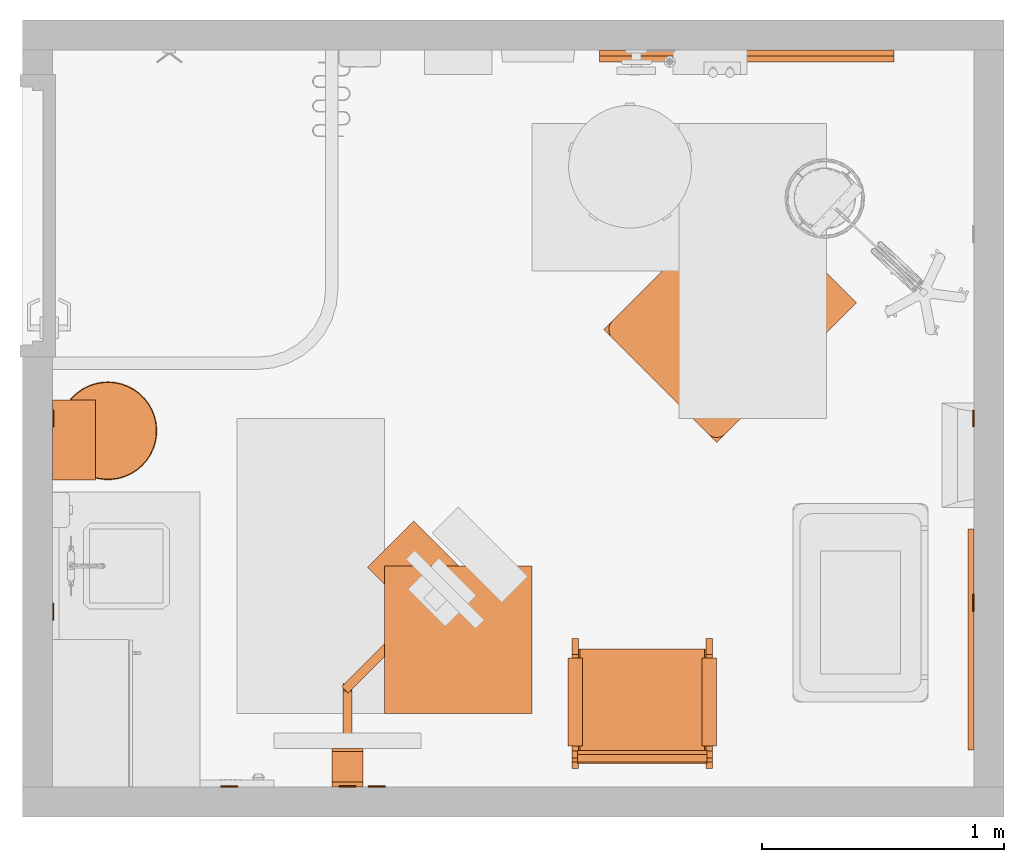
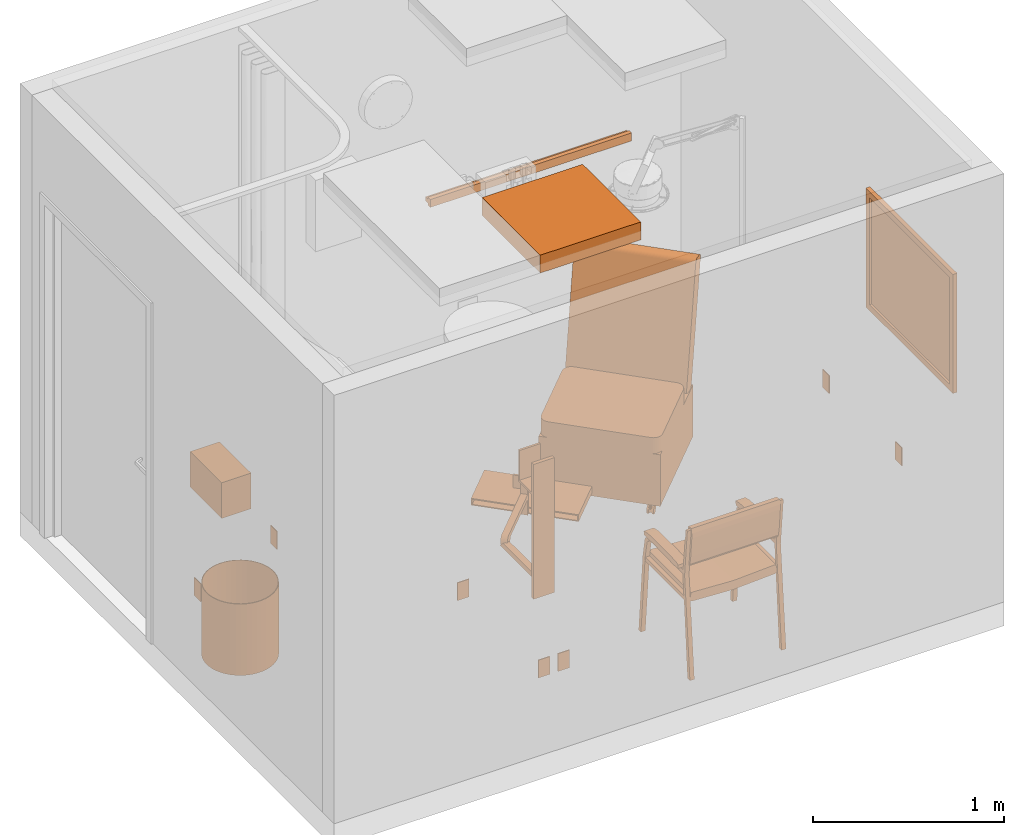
# One storey, part 5 of 10: 15 proxies.
"""IFC2X3 building model written with IfcOpenShell, lengths in feet."""

from ifc_helpers import new_model, entity, si_unit, converted_unit, derived_unit, direction, frame, frame_2d, origin, origin_2d_with_axis, place, context, subcontext, project, spatial, polyline, circle_curve, parameter, trimmed, segment, composite_curve, rectangle, circle, hollow_circle, outline, extrude, source, transform, mapped, type_object, type_shapes, element, save


model = new_model("IFC2X3")

# Units and contexts
model_context = context("Model", 3, precision=0.0001, world=origin(), true_north=direction((6.12303176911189e-17, 1.0)))
body_context = subcontext(model_context, "Body", "Model", "MODEL_VIEW")
ifc_project = project(units=[converted_unit("LENGTHUNIT", "FOOT", entity("IfcRatioMeasure", 0.3048), si_unit("LENGTHUNIT", "METRE"), dimensions=[1, 0, 0, 0, 0, 0, 0]), converted_unit("AREAUNIT", "SQUARE FOOT", entity("IfcRatioMeasure", 0.09290304), si_unit("AREAUNIT", "SQUARE_METRE"), dimensions=[2, 0, 0, 0, 0, 0, 0]), converted_unit("VOLUMEUNIT", "CUBIC FOOT", entity("IfcRatioMeasure", 0.028316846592), si_unit("VOLUMEUNIT", "CUBIC_METRE"), dimensions=[3, 0, 0, 0, 0, 0, 0]), converted_unit("PLANEANGLEUNIT", "DEGREE", entity("IfcRatioMeasure", 0.0174532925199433), si_unit("PLANEANGLEUNIT", "RADIAN"), dimensions=[0, 0, 0, 0, 0, 0, 0]), si_unit("MASSUNIT", "GRAM", prefix="KILO"), derived_unit("MASSDENSITYUNIT", [(si_unit("MASSUNIT", "GRAM", prefix="KILO"), 1), (si_unit("LENGTHUNIT", "METRE"), -3)]), si_unit("TIMEUNIT", "SECOND"), si_unit("FREQUENCYUNIT", "HERTZ"), si_unit("THERMODYNAMICTEMPERATUREUNIT", "DEGREE_CELSIUS"), derived_unit("THERMALTRANSMITTANCEUNIT", [(si_unit("MASSUNIT", "GRAM", prefix="KILO"), 1), (si_unit("THERMODYNAMICTEMPERATUREUNIT", "KELVIN"), -1), (si_unit("TIMEUNIT", "SECOND"), -3)]), derived_unit("VOLUMETRICFLOWRATEUNIT", [(si_unit("LENGTHUNIT", "METRE"), 3), (si_unit("TIMEUNIT", "SECOND"), -1)]), si_unit("ELECTRICCURRENTUNIT", "AMPERE"), si_unit("ELECTRICVOLTAGEUNIT", "VOLT"), si_unit("POWERUNIT", "WATT"), si_unit("FORCEUNIT", "NEWTON"), si_unit("ILLUMINANCEUNIT", "LUX"), si_unit("LUMINOUSFLUXUNIT", "LUMEN"), si_unit("LUMINOUSINTENSITYUNIT", "CANDELA"), derived_unit("USERDEFINED", [(si_unit("MASSUNIT", "GRAM", prefix="KILO"), -1), (si_unit("LENGTHUNIT", "METRE"), -2), (si_unit("TIMEUNIT", "SECOND"), 3), (si_unit("LUMINOUSFLUXUNIT", "LUMEN"), 1)]), derived_unit("LINEARVELOCITYUNIT", [(si_unit("LENGTHUNIT", "METRE"), 1), (si_unit("TIMEUNIT", "SECOND"), -1)]), si_unit("PRESSUREUNIT", "PASCAL"), derived_unit("USERDEFINED", [(si_unit("LENGTHUNIT", "METRE"), -2), (si_unit("MASSUNIT", "GRAM", prefix="KILO"), 1), (si_unit("TIMEUNIT", "SECOND"), -2)])], contexts=[model_context])

# Site, building, storey, space
site_placement = place(None, origin())
site = spatial("IfcSite", under=ifc_project, at=site_placement, Name="Default", CompositionType="ELEMENT")
building_placement = place(site_placement, origin())
building = spatial("IfcBuilding", under=site, at=building_placement, Name="OUTPATIENT / PACT CLINIC (Ch. 265)", CompositionType="ELEMENT")
storey_placement = place(building_placement, origin())
storey = spatial("IfcBuildingStorey", under=building, at=storey_placement, Name="DATUM", CompositionType="ELEMENT", Elevation=0.0)
space_placement = place(storey_placement, origin())
space = spatial("IfcSpace", under=storey, at=space_placement, Name="WRTM3", CompositionType="ELEMENT", InteriorOrExteriorSpace="INTERNAL")

# Proxies
building_element_proxy_type_1 = type_object("IfcBuildingElementProxyType", Name="24\" x 24\"", PredefinedType="NOTDEFINED")
shared_shape_1 = source(origin(), body_context, "Body", "SweptSolid", [
    extrude(rectangle(XDim=2.00000000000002, YDim=2.00000000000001, at=origin_2d_with_axis()), frame((0.0, 0.0, 8.0), z_axis=(0.0, 0.0, 1.0), x_axis=(0.0, 1.0, 0.0)), (0.0, 0.0, 1.0), 0.375),
])
type_shapes(building_element_proxy_type_1, [shared_shape_1])
proxy_1_placement = place(space_placement, frame((241.766410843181, -857.855546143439, 1.0)))
element("IfcBuildingElementProxy", 1, at=proxy_1_placement, inside=space, type_object=building_element_proxy_type_1, Name="Supply Diffuser:24\" x 24\"", ObjectType="24\" x 24\"", context=body_context, shape_type="MappedRepresentation", body=[
    mapped(shared_shape_1, transform((0.0, 0.0, 0.0), scale=1.0)),
])
building_element_proxy_type_2 = type_object("IfcBuildingElementProxyType", Name="A5080 - Dispenser, Paper Towel", PredefinedType="NOTDEFINED")
shared_shape_2 = source(origin(), body_context, "Body", "SweptSolid", [
    extrude(rectangle(XDim=0.58333333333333, YDim=1.08333333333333, at=frame_2d((9.99200722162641e-16, 0.0), x_axis=(1.0, 0.0))), frame((0.0, -0.291666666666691, 0.0), z_axis=(0.0, 0.0, 1.0), x_axis=(0.0, 1.0, 0.0)), (0.0, 0.0, 1.0), 0.75),
])
type_shapes(building_element_proxy_type_2, [shared_shape_2])
proxy_2_placement = place(space_placement, frame((236.266410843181, -855.147212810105, 3.49999999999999), z_axis=(0.0, 0.0, 1.0), x_axis=(0.0, 1.0, 0.0)))
element("IfcBuildingElementProxy", 2, at=proxy_2_placement, inside=space, type_object=building_element_proxy_type_2, Name="A5080 - Dispenser, Paper Towel:A5080 - Dispenser, Paper Towel", ObjectType="A5080 - Dispenser, Paper Towel", context=body_context, shape_type="MappedRepresentation", body=[
    mapped(shared_shape_2, transform((0.0, 0.0, 0.0), scale=1.0)),
])
building_element_proxy_type_3 = type_object("IfcBuildingElementProxyType", Name="F0205 - Chair, Side With Arms", PredefinedType="NOTDEFINED")
shared_shape_3 = source(origin(), body_context, "Body", "SweptSolid", [
    extrude(outline(polyline([(-0.104007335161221, -0.374369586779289), (-0.027711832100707, -0.374369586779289), (-0.0197350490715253, -0.338348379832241), (0.00592434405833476, -0.182113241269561), (0.0162560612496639, -0.135457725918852), (0.0457826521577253, -0.00212284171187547), (0.0856087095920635, 0.177721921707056), (0.112798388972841, 0.276572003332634), (0.120257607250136, 0.307674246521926), (0.129202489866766, 0.415216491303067), (0.045581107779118, 0.433734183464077), (0.0167028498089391, 0.395704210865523), (-0.0364083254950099, 0.222671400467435), (-0.125070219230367, -0.177704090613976), (-0.13682888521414, -0.27538652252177), (-0.128352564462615, -0.36942248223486), (-0.104007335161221, -0.374369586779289)])), frame((-0.891159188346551, -0.878769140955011, 2.73061112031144), z_axis=(0.0, 1.0, 0.0), x_axis=(0.991475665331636, 0.0, -0.130291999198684)), (0.0, 0.0, 1.0), 1.75919993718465),
    extrude(outline(polyline([(0.0907668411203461, -0.842703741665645), (0.261538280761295, -0.842703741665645), (0.265730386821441, -0.773999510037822), (0.127479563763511, 0.0287496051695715), (-0.0923338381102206, 0.813085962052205), (-0.125373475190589, 0.873420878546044), (-0.279635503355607, 0.800086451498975), (-0.270660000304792, 0.752608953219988), (-0.0560029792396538, -0.0126173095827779), (0.0784907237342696, -0.795927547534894), (0.0907668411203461, -0.842703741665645)])), frame((-0.90556950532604, 0.000822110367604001, 1.62079321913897), z_axis=(1.0, 0.0, 0.0), x_axis=(0.0, -0.219936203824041, -0.975514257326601)), (0.0, 0.0, 1.0), 1.47211210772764),
    extrude(outline(polyline([(-0.552031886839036, -0.234422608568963), (-0.484734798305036, -0.234422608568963), (-0.233837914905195, -0.160903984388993), (0.324339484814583, 0.0422559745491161), (0.453697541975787, 0.101150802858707), (0.564536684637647, 0.176717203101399), (0.51204038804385, 0.250193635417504), (0.420212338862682, 0.216770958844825), (0.254858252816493, 0.145732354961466), (-0.246233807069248, -0.0366502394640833), (-0.436544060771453, -0.0986810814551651), (-0.576302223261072, -0.167740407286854), (-0.552031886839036, -0.234422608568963)])), frame((-0.1510824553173, -1.00916916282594, 2.22827697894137), z_axis=(0.0, 1.0, 0.0), x_axis=(0.939692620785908, 0.0, 0.34202014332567)), (0.0, 0.0, 1.0), 0.198199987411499),
    extrude(outline(polyline([(-0.525375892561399, -0.221085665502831), (-0.458078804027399, -0.221085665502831), (-0.207181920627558, -0.147567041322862), (0.350995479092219, 0.0555929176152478), (0.480353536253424, 0.114487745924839), (0.591192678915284, 0.190054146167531), (0.551062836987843, 0.246221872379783), (0.114629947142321, 0.0873732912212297), (0.281514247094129, 0.159069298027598), (-0.219577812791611, -0.0233132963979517), (-0.409888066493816, -0.0853441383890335), (-0.549646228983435, -0.154403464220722), (-0.525375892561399, -0.221085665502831)])), frame((-0.180692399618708, 0.814330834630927, 2.23169271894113), z_axis=(0.0, 1.0, 0.0), x_axis=(0.939692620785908, 0.0, 0.34202014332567)), (0.0, 0.0, 1.0), 0.196499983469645),
    extrude(outline(polyline([(0.0166377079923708, -0.666422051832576), (0.099971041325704, -0.666422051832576), (-0.0172324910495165, 0.673220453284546), (-0.0993762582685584, 0.659623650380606), (0.0166377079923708, -0.666422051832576)])), frame((-0.182442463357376, -0.954369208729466, 1.61480726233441), z_axis=(0.0, 1.0, 0.0), x_axis=(0.0871557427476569, 0.0, -0.996194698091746)), (0.0, 0.0, 1.0), 0.0833333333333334),
    extrude(outline(polyline([(0.0166377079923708, -0.666422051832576), (0.099971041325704, -0.666422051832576), (-0.0172324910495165, 0.673220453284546), (-0.0993762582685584, 0.659623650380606), (0.0166377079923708, -0.666422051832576)])), frame((-0.182442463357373, 0.867430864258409, 1.61480726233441), z_axis=(0.0, 1.0, 0.0), x_axis=(0.0871557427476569, 0.0, -0.996194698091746)), (0.0, 0.0, 1.0), 0.0833333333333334),
    extrude(outline(polyline([(0.811855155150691, -1.61770011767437), (0.895188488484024, -1.61770011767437), (0.71143329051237, 0.489199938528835), (0.806416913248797, 1.46713632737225), (0.751033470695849, 1.46713632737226), (0.656855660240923, 0.571094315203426), (-0.516612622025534, 0.571094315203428), (-0.653571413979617, 0.441277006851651), (-0.728375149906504, 0.0391907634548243), (-0.871611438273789, -1.61770011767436), (-0.791571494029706, -1.61770011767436), (-0.646611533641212, 0.0391998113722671), (-0.578172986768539, 0.407071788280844), (-0.496044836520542, 0.48919993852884), (0.649788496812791, 0.489199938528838), (0.811855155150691, -1.61770011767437)])), frame((-0.163768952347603, -0.954369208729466, 1.61770011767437), z_axis=(0.0, 1.0, 0.0), x_axis=(-1.0, 0.0, 0.0)), (0.0, 0.0, 1.0), 0.0885709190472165),
    extrude(outline(polyline([(0.811855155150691, -1.61770011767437), (0.895188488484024, -1.61770011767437), (0.71143329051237, 0.489199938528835), (0.806416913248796, 1.46713632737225), (0.751033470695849, 1.46713632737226), (0.656855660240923, 0.571094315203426), (-0.516612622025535, 0.571094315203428), (-0.653571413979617, 0.441277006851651), (-0.728375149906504, 0.0391907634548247), (-0.871611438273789, -1.61770011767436), (-0.791571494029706, -1.61770011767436), (-0.646611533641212, 0.0391998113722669), (-0.578172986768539, 0.407071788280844), (-0.496044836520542, 0.48919993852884), (0.649788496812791, 0.489199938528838), (0.811855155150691, -1.61770011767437)])), frame((-0.1637689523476, 0.867430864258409, 1.61770011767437), z_axis=(0.0, 1.0, 0.0), x_axis=(-1.0, 0.0, 0.0)), (0.0, 0.0, 1.0), 0.0885709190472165),
])
type_shapes(building_element_proxy_type_3, [shared_shape_3])
proxy_3_placement = place(space_placement, frame((244.266410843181, -858.546588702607, 0.0), z_axis=(0.0, 0.0, 1.0), x_axis=(0.0, 1.0, 0.0)))
element("IfcBuildingElementProxy", 3, at=proxy_3_placement, inside=space, type_object=building_element_proxy_type_3, Name="F0205 - Chair, Side With Arms:F0205 - Chair, Side With Arms", ObjectType="F0205 - Chair, Side With Arms", context=body_context, shape_type="MappedRepresentation", body=[
    mapped(shared_shape_3, transform((0.0, 0.0, 0.0), scale=1.0)),
])
building_element_proxy_type_4 = type_object("IfcBuildingElementProxyType", Name="F2000 - Basket, Wastepaper", PredefinedType="NOTDEFINED")
shared_shape_4 = source(origin(), body_context, "Body", "SweptSolid", [
    extrude(circle(Radius=0.666666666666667, at=frame_2d((0.0, -1.07702971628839e-15), x_axis=(1.0, 0.0))), origin(), (0.0, 0.0, 1.0), 0.0104166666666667),
    extrude(hollow_circle(Radius=0.666666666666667, WallThickness=0.0104166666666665, at=frame_2d((0.0, -1.07702971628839e-15), x_axis=(1.0, 0.0))), frame((0.0, 0.0, 0.0104166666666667)), (0.0, 0.0, 1.0), 1.48958333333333),
])
type_shapes(building_element_proxy_type_4, [shared_shape_4])
proxy_4_placement = place(space_placement, frame((237.01641084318, -855.022212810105, 0.0), z_axis=(0.0, 0.0, 1.0), x_axis=(0.0, 1.0, 0.0)))
element("IfcBuildingElementProxy", 4, at=proxy_4_placement, inside=space, type_object=building_element_proxy_type_4, Name="F2000 - Basket, Wastepaper:F2000 - Basket, Wastepaper", ObjectType="F2000 - Basket, Wastepaper", context=body_context, shape_type="MappedRepresentation", body=[
    mapped(shared_shape_4, transform((0.0, 0.0, 0.0), scale=1.0)),
])
building_element_proxy_type_5 = type_object("IfcBuildingElementProxyType", Name="F3025 - Board, Bulletin, Wood Framed", PredefinedType="NOTDEFINED")
shared_shape_5 = source(origin(), body_context, "Body", "SweptSolid", [
    extrude(rectangle(XDim=0.0416666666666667, YDim=2.74999999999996, at=origin_2d_with_axis()), frame((0.0, -0.020833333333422, 0.124999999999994), z_axis=(0.0, 0.0, 1.0), x_axis=(0.0, 1.0, 0.0)), (0.0, 0.0, 1.0), 2.25000000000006),
    extrude(outline(polyline([(-1.49999999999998, -1.25), (1.49999999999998, -1.25), (1.49999999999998, 1.25), (-1.49999999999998, 1.25), (-1.49999999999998, -1.25)]), holes=[polyline([(-1.37499999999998, -1.125), (-1.37499999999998, 1.12500000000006), (1.37499999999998, 1.12500000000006), (1.37499999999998, -1.125), (-1.37499999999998, -1.125)])]), frame((0.0, -0.0833333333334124, 1.25), z_axis=(0.0, 1.0, 0.0), x_axis=(-1.0, 0.0, 0.0)), (0.0, 0.0, 1.0), 0.0833333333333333),
])
type_shapes(building_element_proxy_type_5, [shared_shape_5])
proxy_5_placement = place(space_placement, frame((248.766410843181, -857.855546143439, 4.0), z_axis=(0.0, 0.0, 1.0), x_axis=(0.0, -1.0, 0.0)))
element("IfcBuildingElementProxy", 5, at=proxy_5_placement, inside=space, type_object=building_element_proxy_type_5, Name="F3025 - Board, Bulletin, Wood Framed:F3025 - Board, Bulletin, Wood Framed", ObjectType="F3025 - Board, Bulletin, Wood Framed", context=body_context, shape_type="MappedRepresentation", body=[
    mapped(shared_shape_5, transform((0.0, 0.0, 0.0), scale=1.0)),
])
building_element_proxy_type_6 = type_object("IfcBuildingElementProxyType", Name="M1803 - Workstation, Computer, Wall Mounted", PredefinedType="NOTDEFINED")
shared_shape_6 = source(origin(), body_context, "Body", "SweptSolid", [
    extrude(circle(Radius=0.104166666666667, at=frame_2d((1.0547118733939e-15, 3.336446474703e-16), x_axis=(1.0, 0.0))), frame((-0.0810226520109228, -1.34888430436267, 0.333333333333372), z_axis=(0.707106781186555, -0.70710678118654, 0.0), x_axis=(0.0, 0.0, 1.0)), (0.0, 0.0, 1.0), 0.125000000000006),
    extrude(outline(composite_curve([segment(polyline([(0.0520833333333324, -0.592708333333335), (0.0520833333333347, 0.644791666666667)]), True, "CONTINUOUS"), segment(polyline([(0.0520833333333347, 0.644791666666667), (-0.0520833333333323, 0.644791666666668)]), True, "CONTINUOUS"), segment(polyline([(-0.0520833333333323, 0.644791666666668), (-0.0520833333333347, -0.696875)]), True, "CONTINUOUS"), segment(trimmed(circle_curve(frame_2d((0.0520833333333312, -0.696875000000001), x_axis=(1.0, 0.0)), 0.104166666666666), [parameter(89.9999999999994)], [parameter(180.0)], True, "PARAMETER"), False, "CONTINUOUS")], self_intersect=False)), frame((-0.0624999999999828, -0.711458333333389, 0.281250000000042), z_axis=(-1.0, 0.0, 0.0), x_axis=(0.0, 0.0, 1.0)), (0.0, 0.0, -1.0), 0.125000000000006),
    extrude(outline(composite_curve([segment(polyline([(0.0520833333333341, -0.651041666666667), (0.0520833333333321, 0.598958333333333)]), True, "CONTINUOUS"), segment(polyline([(0.0520833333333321, 0.598958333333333), (-0.0520833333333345, 0.598958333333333)]), True, "CONTINUOUS"), segment(polyline([(-0.0520833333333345, 0.598958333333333), (-0.0520833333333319, -0.546875)]), True, "CONTINUOUS"), segment(trimmed(circle_curve(frame_2d((-0.0520833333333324, -0.651041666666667), x_axis=(1.0, 0.0)), 0.104166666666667), [parameter(1.01777749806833e-13)], [parameter(90.0000000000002)], True, "PARAMETER"), False, "CONTINUOUS")], self_intersect=False)), frame((-0.452990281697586, -1.89762862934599, 0.385416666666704), z_axis=(0.707106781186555, -0.70710678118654, 0.0), x_axis=(0.0, 0.0, 1.0)), (0.0, 0.0, -1.0), 0.125000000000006),
    extrude(outline(polyline([(-0.0729166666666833, -0.95833333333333), (0.0729166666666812, -0.95833333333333), (0.0729166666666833, 0.95833333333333), (-0.0729166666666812, 0.95833333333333), (-0.0729166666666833, -0.95833333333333)]), holes=[polyline([(-0.05208333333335, -0.937499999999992), (-0.052083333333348, 0.937499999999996), (0.0520833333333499, 0.937499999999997), (0.0520833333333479, -0.937499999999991), (-0.05208333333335, -0.937499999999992)])]), frame((-1.5747857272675, -2.93103572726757, 0.0729166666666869), z_axis=(0.707106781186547, 0.707106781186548, 0.0), x_axis=(0.0, 0.0, -1.0)), (0.0, 0.0, 1.0), 0.883333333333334),
    extrude(rectangle(XDim=0.0666666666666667, YDim=0.416666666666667, at=origin_2d_with_axis()), frame((0.0, -0.0333333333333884, 0.0), z_axis=(0.0, 0.0, 1.0), x_axis=(0.0, 1.0, 0.0)), (0.0, 0.0, 1.0), 0.11949518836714),
    extrude(outline(polyline([(-0.208333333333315, -0.0270833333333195), (-0.0625000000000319, -0.0270833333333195), (-0.0625000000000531, 0.014583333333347), (0.0625000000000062, 0.014583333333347), (0.0625000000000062, -0.0270833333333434), (0.208333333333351, -0.0270833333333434), (0.208333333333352, 0.0395833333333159), (-0.208333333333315, 0.0395833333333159), (-0.208333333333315, -0.0270833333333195)])), frame((0.0, -0.0395833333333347, 0.119495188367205)), (0.0, 0.0, 1.0), 2.0471714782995),
    extrude(outline(polyline([(-0.194444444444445, 0.125), (0.430555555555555, 0.125), (0.430555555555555, 0.166666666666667), (-0.236111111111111, 0.166666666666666), (-0.236111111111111, -0.291666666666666), (-0.194444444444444, -0.291666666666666), (-0.194444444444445, 0.125)])), frame((-0.208333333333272, -0.358333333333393, 2.40277777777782), z_axis=(1.0, 0.0, 0.0), x_axis=(0.0, 0.0, 1.0)), (0.0, 0.0, 1.0), 0.416666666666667),
    extrude(rectangle(XDim=0.0416666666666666, YDim=0.416666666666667, at=frame_2d((4.16333634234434e-17, -5.55111512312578e-17), x_axis=(1.0, 0.0))), frame((-0.964906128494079, -2.3211561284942, 0.503601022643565), z_axis=(0.0, 0.0, 1.0), x_axis=(0.707106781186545, 0.70710678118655, 0.0)), (0.0, 0.0, 1.0), 0.267232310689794),
    extrude(rectangle(XDim=0.125000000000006, YDim=0.0416666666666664, at=frame_2d((-1.94289029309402e-16, 1.16226472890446e-16), x_axis=(1.0, 0.0))), frame((-0.935443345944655, -2.29169334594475, 0.0), z_axis=(0.0, 0.0, 1.0), x_axis=(-0.707106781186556, 0.70710678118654, 0.0)), (0.0, 0.0, 1.0), 0.666666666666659),
    extrude(rectangle(XDim=0.0666666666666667, YDim=0.416666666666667, at=origin_2d_with_axis()), frame((0.0, -0.0333333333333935, 2.16666666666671), z_axis=(0.0, 0.0, 1.0), x_axis=(0.0, 1.0, 0.0)), (0.0, 0.0, 1.0), 0.666666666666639),
])
type_shapes(building_element_proxy_type_6, [shared_shape_6])
proxy_6_placement = place(space_placement, frame((240.266430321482, -859.855546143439, 3.0), z_axis=(0.0, 0.0, 1.0), x_axis=(-1.0, 0.0, 0.0)))
element("IfcBuildingElementProxy", 6, at=proxy_6_placement, inside=space, type_object=building_element_proxy_type_6, Name="M1803 - Workstation, Computer, Wall Mounted:M1803 - Workstation, Computer, Wall Mounted", ObjectType="M1803 - Workstation, Computer, Wall Mounted", context=body_context, shape_type="MappedRepresentation", body=[
    mapped(shared_shape_6, transform((0.0, 0.0, 0.0), scale=1.0)),
])
building_element_proxy_type_7 = type_object("IfcBuildingElementProxyType", Name="Exam/Treatment Table with Cabinet", PredefinedType="NOTDEFINED")
shared_shape_7 = source(origin(), body_context, "Body", "SweptSolid", [
    extrude(circle(Radius=0.0833333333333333, at=frame_2d((0.0, -1.38777878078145e-16), x_axis=(1.0, 0.0))), frame((-0.843750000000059, 0.432291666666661, 0.0833333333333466), z_axis=(1.0, 0.0, 0.0), x_axis=(0.0, 1.0, 0.0)), (0.0, 0.0, 1.0), 0.0312500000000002),
    extrude(circle(Radius=0.0260416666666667, at=frame_2d((0.0, -5.55111512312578e-17), x_axis=(1.0, 0.0))), frame((-0.87500000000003, 0.463541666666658, 0.0801325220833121), z_axis=(0.0, 0.0, 1.0), x_axis=(-1.0, 0.0, 0.0)), (0.0, 0.0, 1.0), 0.211534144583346),
    extrude(circle(Radius=0.0625, at=frame_2d((0.0, -2.77555756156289e-16), x_axis=(1.0, 0.0))), frame((-0.90625000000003, 0.432291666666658, 0.0833333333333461), z_axis=(1.0, 0.0, 0.0), x_axis=(0.0, -1.0, 0.0)), (0.0, 0.0, 1.0), 0.0625),
    extrude(circle(Radius=0.0833333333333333, at=frame_2d((0.0, -1.38777878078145e-16), x_axis=(1.0, 0.0))), frame((-0.93750000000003, 0.432291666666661, 0.0833333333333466), z_axis=(1.0, 0.0, 0.0), x_axis=(0.0, 1.0, 0.0)), (0.0, 0.0, 1.0), 0.0312500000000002),
    extrude(circle(Radius=0.0833333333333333, at=frame_2d((0.0, -3.7470027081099e-16), x_axis=(1.0, 0.0))), frame((0.81250000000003, 0.432291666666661, 0.083333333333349), z_axis=(1.0, 0.0, 0.0), x_axis=(0.0, 1.0, 0.0)), (0.0, 0.0, 1.0), 0.0312500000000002),
    extrude(circle(Radius=0.0260416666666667, at=frame_2d((0.0, -5.55111512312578e-17), x_axis=(1.0, 0.0))), frame((0.875000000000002, 0.463541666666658, 0.0801325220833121)), (0.0, 0.0, 1.0), 0.211534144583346),
    extrude(circle(Radius=0.0625, at=frame_2d((0.0, -1.11022302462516e-16), x_axis=(1.0, 0.0))), frame((0.843750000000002, 0.432291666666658, 0.0833333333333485), z_axis=(1.0, 0.0, 0.0), x_axis=(0.0, -1.0, 0.0)), (0.0, 0.0, 1.0), 0.0625),
    extrude(circle(Radius=0.0833333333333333, at=frame_2d((0.0, -3.7470027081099e-16), x_axis=(1.0, 0.0))), frame((0.906250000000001, 0.432291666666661, 0.083333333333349), z_axis=(1.0, 0.0, 0.0), x_axis=(0.0, 1.0, 0.0)), (0.0, 0.0, 1.0), 0.0312500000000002),
    extrude(circle(Radius=0.0833333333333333, at=frame_2d((0.0, -1.38777878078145e-16), x_axis=(1.0, 0.0))), frame((-0.843750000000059, -1.41145833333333, 0.0833333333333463), z_axis=(1.0, 0.0, 0.0), x_axis=(0.0, -1.0, 0.0)), (0.0, 0.0, 1.0), 0.0312500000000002),
    extrude(circle(Radius=0.0260416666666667, at=origin_2d_with_axis()), frame((-0.87500000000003, -1.44270833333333, 0.0801325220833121), z_axis=(0.0, 0.0, 1.0), x_axis=(-1.0, 0.0, 0.0)), (0.0, 0.0, 1.0), 0.211534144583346),
    extrude(circle(Radius=0.0625, at=frame_2d((0.0, -2.77555756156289e-16), x_axis=(1.0, 0.0))), frame((-0.90625000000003, -1.41145833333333, 0.0833333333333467), z_axis=(1.0, 0.0, 0.0), x_axis=(0.0, 1.0, 0.0)), (0.0, 0.0, 1.0), 0.0625),
    extrude(circle(Radius=0.0833333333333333, at=frame_2d((0.0, -1.38777878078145e-16), x_axis=(1.0, 0.0))), frame((-0.93750000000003, -1.41145833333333, 0.0833333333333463), z_axis=(1.0, 0.0, 0.0), x_axis=(0.0, -1.0, 0.0)), (0.0, 0.0, 1.0), 0.0312500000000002),
    extrude(circle(Radius=0.0833333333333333, at=frame_2d((0.0, -3.7470027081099e-16), x_axis=(1.0, 0.0))), frame((0.81250000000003, -1.41145833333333, 0.0833333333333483), z_axis=(1.0, 0.0, 0.0), x_axis=(0.0, -1.0, 0.0)), (0.0, 0.0, 1.0), 0.0312500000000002),
    extrude(circle(Radius=0.0260416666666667, at=origin_2d_with_axis()), frame((0.875000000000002, -1.44270833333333, 0.0801325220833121)), (0.0, 0.0, 1.0), 0.211534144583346),
    extrude(circle(Radius=0.0625, at=frame_2d((0.0, -1.11022302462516e-16), x_axis=(1.0, 0.0))), frame((0.843750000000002, -1.41145833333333, 0.0833333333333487), z_axis=(1.0, 0.0, 0.0), x_axis=(0.0, 1.0, 0.0)), (0.0, 0.0, 1.0), 0.0625),
    extrude(circle(Radius=0.0833333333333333, at=frame_2d((0.0, -3.7470027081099e-16), x_axis=(1.0, 0.0))), frame((0.906250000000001, -1.41145833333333, 0.0833333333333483), z_axis=(1.0, 0.0, 0.0), x_axis=(0.0, -1.0, 0.0)), (0.0, 0.0, 1.0), 0.0312500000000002),
    extrude(rectangle(XDim=2.1666666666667, YDim=2.18316882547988, at=origin_2d_with_axis()), frame((0.0, -0.491748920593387, 0.291666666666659), z_axis=(0.0, 0.0, 1.0), x_axis=(-1.0, 0.0, 0.0)), (0.0, 0.0, 1.0), 1.08333333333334),
    extrude(outline(composite_curve([segment(trimmed(circle_curve(frame_2d((-0.221258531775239, -1.14772335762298), x_axis=(1.0, 0.0)), 0.0833333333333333), [parameter(255.0)], [parameter(345.0)], True, "PARAMETER"), True, "CONTINUOUS"), segment(polyline([(-0.140764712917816, -1.16929161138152), (0.462739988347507, 1.08301859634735)]), True, "CONTINUOUS"), segment(trimmed(circle_curve(frame_2d((0.382246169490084, 1.10458685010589), x_axis=(1.0, 0.0)), 0.0833333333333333), [parameter(345.000000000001)], [parameter(75.0000000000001)], True, "PARAMETER"), True, "CONTINUOUS"), segment(polyline([(0.403814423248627, 1.18508066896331), (0.242826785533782, 1.2282171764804)]), True, "CONTINUOUS"), segment(trimmed(circle_curve(frame_2d((0.221258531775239, 1.14772335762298), x_axis=(1.0, 0.0)), 0.0833333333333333), [parameter(74.9999999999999)], [parameter(165.0)], True, "PARAMETER"), True, "CONTINUOUS"), segment(polyline([(0.140764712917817, 1.16929161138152), (-0.462739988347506, -1.08301859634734)]), True, "CONTINUOUS"), segment(trimmed(circle_curve(frame_2d((-0.382246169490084, -1.10458685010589), x_axis=(1.0, 0.0)), 0.0833333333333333), [parameter(165.0)], [parameter(255.0)], True, "PARAMETER"), True, "CONTINUOUS"), segment(polyline([(-0.403814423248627, -1.18508066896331), (-0.242826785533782, -1.2282171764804)]), True, "CONTINUOUS")], self_intersect=False)), frame((-1.08333333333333, 0.632933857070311, 2.62668441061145), z_axis=(1.0, 0.0, 0.0), x_axis=(0.0, 1.0, 0.0)), (0.0, 0.0, 1.0), 2.16666666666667),
    extrude(outline(composite_curve([segment(polyline([(-0.916666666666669, -0.854166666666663), (0.91666666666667, -0.854166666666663)]), True, "CONTINUOUS"), segment(trimmed(circle_curve(frame_2d((0.916666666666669, -0.687499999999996), x_axis=(-1.0, 0.0)), 0.166666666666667), [parameter(90.0000000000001)], [parameter(180.0)], True, "PARAMETER"), True, "CONTINUOUS"), segment(polyline([(1.08333333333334, -0.687499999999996), (1.08333333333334, 0.687499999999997)]), True, "CONTINUOUS"), segment(trimmed(circle_curve(frame_2d((0.916666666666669, 0.687499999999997), x_axis=(-1.0, 0.0)), 0.166666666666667), [parameter(180.0)], [parameter(270.0)], True, "PARAMETER"), True, "CONTINUOUS"), segment(polyline([(0.916666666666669, 0.854166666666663), (-0.91666666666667, 0.854166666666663)]), True, "CONTINUOUS"), segment(trimmed(circle_curve(frame_2d((-0.916666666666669, 0.687499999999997), x_axis=(-1.0, 0.0)), 0.166666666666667), [parameter(270.0)], [parameter(0.0)], True, "PARAMETER"), True, "CONTINUOUS"), segment(polyline([(-1.08333333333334, 0.687499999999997), (-1.08333333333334, -0.687499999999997)]), True, "CONTINUOUS"), segment(trimmed(circle_curve(frame_2d((-0.916666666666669, -0.687499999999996), x_axis=(-1.0, 0.0)), 0.166666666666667), [parameter(0.0)], [parameter(90.0000000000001)], True, "PARAMETER"), True, "CONTINUOUS")], self_intersect=False)), frame((0.0, -0.729166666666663, 1.375), z_axis=(0.0, 0.0, 1.0), x_axis=(-1.0, 0.0, 0.0)), (0.0, 0.0, 1.0), 0.333333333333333),
])
type_shapes(building_element_proxy_type_7, [shared_shape_7])
proxy_7_placement = place(space_placement, frame((245.62784062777, -853.296419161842, 0.0), z_axis=(0.0, 0.0, 1.0), x_axis=(0.707106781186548, -0.707106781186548, 0.0)))
element("IfcBuildingElementProxy", 7, at=proxy_7_placement, inside=space, type_object=building_element_proxy_type_7, Name="M9025 - Exam Table:Exam/Treatment Table with Cabinet", ObjectType="Exam/Treatment Table with Cabinet", context=body_context, shape_type="MappedRepresentation", body=[
    mapped(shared_shape_7, transform((0.0, 0.0, 0.0), scale=1.0)),
])
building_element_proxy_type_8 = type_object("IfcBuildingElementProxyType", Name="A1132 - Rail, Accessory Mounting", PredefinedType="NOTDEFINED")
shared_shape_8 = source(origin(), body_context, "Body", "SweptSolid", [
    extrude(outline(polyline([(0.0416666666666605, 0.0), (0.0833333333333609, 0.0), (0.083333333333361, 0.0833333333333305), (-0.0833333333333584, 0.0833333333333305), (-0.0833333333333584, 0.0), (-0.0416666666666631, 0.0), (-0.0416666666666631, -0.0833333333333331), (0.0416666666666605, -0.0833333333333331), (0.0416666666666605, 0.0)])), frame((-2.0, -0.0833333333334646, 0.0833333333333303), z_axis=(1.0, 0.0, 0.0), x_axis=(0.0, 0.0, 1.0)), (0.0, 0.0, 1.0), 4.0),
])
type_shapes(building_element_proxy_type_8, [shared_shape_8])
proxy_8_placement = place(space_placement, frame((245.683077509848, -849.855546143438, 4.0)))
element("IfcBuildingElementProxy", 8, at=proxy_8_placement, inside=space, type_object=building_element_proxy_type_8, Name="A1132 - Rail, Accessory Mounting:A1132 - Rail, Accessory Mounting", ObjectType="A1132 - Rail, Accessory Mounting", context=body_context, shape_type="MappedRepresentation", body=[
    mapped(shared_shape_8, transform((0.0, 0.0, 0.0), scale=1.0)),
])
building_element_proxy_type_9 = type_object("IfcBuildingElementProxyType", Name="Duplex", PredefinedType="NOTDEFINED")
shared_shape_9 = source(origin(), body_context, "Body", "SweptSolid", [
    extrude(rectangle(XDim=0.0156249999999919, YDim=0.229166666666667, at=origin_2d_with_axis()), frame((0.0, 0.210937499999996, 0.0), z_axis=(0.0, 0.0, 1.0), x_axis=(0.0, 1.0, 0.0)), (0.0, 0.0, 1.0), 0.37500000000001),
])
type_shapes(building_element_proxy_type_9, [shared_shape_9])
proxy_9_placement = place(space_placement, frame((240.266430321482, -860.058671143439, 1.3125)))
element("IfcBuildingElementProxy", 9, at=proxy_9_placement, inside=space, type_object=building_element_proxy_type_9, Name="Outlet, Duplex, Wall:Duplex", ObjectType="Duplex", context=body_context, shape_type="MappedRepresentation", body=[
    mapped(shared_shape_9, transform((0.0, 0.0, 0.0), scale=1.0)),
])
for number, where, z_axis, x_axis, name in (
    (10, (236.063285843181, -857.475337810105, 4.0), (0.0, 0.0, 1.0), (0.0, -1.0, 0.0), "Outlet, Duplex, Wall:Duplex"),
    (11, (236.063285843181, -854.855570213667, 1.3125), (0.0, 0.0, 1.0), (0.0, -1.0, 0.0), "Outlet, Duplex, Wall:Duplex"),
    (12, (248.969535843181, -854.855546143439, 1.31250000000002), (0.0, 0.0, 1.0), (0.0, 1.0, 0.0), "Outlet, Duplex, Wall:Duplex"),
    (13, (248.969535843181, -857.355546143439, 1.31250000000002), (0.0, 0.0, 1.0), (0.0, 1.0, 0.0), "Outlet, Duplex, Wall:Duplex"),
):
    element("IfcBuildingElementProxy", number, at=place(space_placement, frame(where, z_axis=z_axis, x_axis=x_axis)), inside=space, type_object=building_element_proxy_type_9, Name=name, ObjectType="Duplex", context=body_context, shape_type="MappedRepresentation", body=[
        mapped(shared_shape_9, transform((0.0, 0.0, 0.0), scale=1.0)),
    ])
building_element_proxy_type_10 = type_object("IfcBuildingElementProxyType", Name="Telephone/Data", PredefinedType="NOTDEFINED")
shared_shape_10 = source(origin(), body_context, "Body", "SweptSolid", [
    extrude(rectangle(XDim=0.0156249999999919, YDim=0.229166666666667, at=origin_2d_with_axis()), frame((0.0, 0.210937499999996, 0.0), z_axis=(0.0, 0.0, 1.0), x_axis=(0.0, 1.0, 0.0)), (0.0, 0.0, 1.0), 0.375),
])
type_shapes(building_element_proxy_type_10, [shared_shape_10])
for number, where, name in (
    (14, (240.662263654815, -860.058671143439, 1.3125), "Outlet, Communications:Telephone/Data"),
    (15, (238.662263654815, -860.058671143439, 3.5), "Outlet, Communications:Telephone/Data"),
):
    element("IfcBuildingElementProxy", number, at=place(space_placement, frame(where)), inside=space, type_object=building_element_proxy_type_10, Name=name, ObjectType="Telephone/Data", context=body_context, shape_type="MappedRepresentation", body=[
        mapped(shared_shape_10, transform((0.0, 0.0, 0.0), scale=1.0)),
    ])

save(model, "model.ifc")
